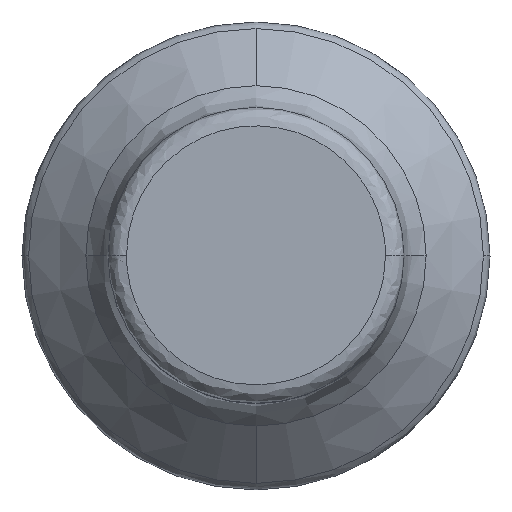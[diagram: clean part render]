
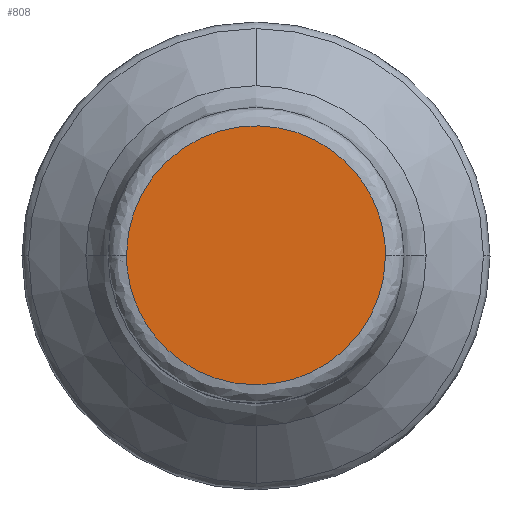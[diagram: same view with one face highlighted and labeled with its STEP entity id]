
A CAD part, top view. The second image highlights one B-rep face of the part: STEP entity #808.
In plain terms, the highlighted planar face has unit normal (0, 0, 1).
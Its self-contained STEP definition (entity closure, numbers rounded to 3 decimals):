
#3 =( BOUNDED_CURVE ( )  B_SPLINE_CURVE ( 3, ( #240, #243, #244, #245 ),
 .UNSPECIFIED., .F., .T. ) 
 B_SPLINE_CURVE_WITH_KNOTS ( ( 4, 4 ),
 ( 0., 1. ),
 .UNSPECIFIED. ) 
 CURVE ( )  GEOMETRIC_REPRESENTATION_ITEM ( )  RATIONAL_B_SPLINE_CURVE ( ( 1., 0.333, 0.333, 1. ) ) 
 REPRESENTATION_ITEM ( '' )  );
#10 =( BOUNDED_CURVE ( )  B_SPLINE_CURVE ( 3, ( #453, #454, #455, #456 ),
 .UNSPECIFIED., .F., .T. ) 
 B_SPLINE_CURVE_WITH_KNOTS ( ( 4, 4 ),
 ( 0., 1. ),
 .UNSPECIFIED. ) 
 CURVE ( )  GEOMETRIC_REPRESENTATION_ITEM ( )  RATIONAL_B_SPLINE_CURVE ( ( 1., 0.333, 0.333, 1. ) ) 
 REPRESENTATION_ITEM ( '' )  );
#88 = ORIENTED_EDGE ( 'NONE', *, *, #800, .F. ) ;
#89 = ORIENTED_EDGE ( 'NONE', *, *, #765, .F. ) ;
#121 = EDGE_LOOP ( 'NONE', ( #89, #88 ) ) ;
#215 = PLANE ( 'NONE',  #704 ) ;
#216 = CARTESIAN_POINT ( 'NONE',  ( 0., 0., 0. ) ) ;
#218 = DIRECTION ( 'NONE',  ( 0., 0., 1. ) ) ;
#222 = DIRECTION ( 'NONE',  ( 1., 0., 0. ) ) ;
#240 = CARTESIAN_POINT ( 'NONE',  ( 2.667, 0., 0. ) ) ;
#243 = CARTESIAN_POINT ( 'NONE',  ( 2.667, -5.334, 0. ) ) ;
#244 = CARTESIAN_POINT ( 'NONE',  ( -2.667, -5.334, 0. ) ) ;
#245 = CARTESIAN_POINT ( 'NONE',  ( -2.667, 0., 0. ) ) ;
#284 = VERTEX_POINT ( 'NONE', #312 ) ;
#288 = VERTEX_POINT ( 'NONE', #316 ) ;
#312 = CARTESIAN_POINT ( 'NONE',  ( -2.667, 0., 0. ) ) ;
#316 = CARTESIAN_POINT ( 'NONE',  ( 2.667, 0., 0. ) ) ;
#453 = CARTESIAN_POINT ( 'NONE',  ( -2.667, 0., 0. ) ) ;
#454 = CARTESIAN_POINT ( 'NONE',  ( -2.667, 5.334, 0. ) ) ;
#455 = CARTESIAN_POINT ( 'NONE',  ( 2.667, 5.334, 0. ) ) ;
#456 = CARTESIAN_POINT ( 'NONE',  ( 2.667, 0., 0. ) ) ;
#613 = FACE_OUTER_BOUND ( 'NONE', #121, .T. ) ;
#704 = AXIS2_PLACEMENT_3D ( 'NONE', #216, #218, #222 ) ;
#765 = EDGE_CURVE ( 'NONE', #284, #288, #10, .T. ) ;
#800 = EDGE_CURVE ( 'NONE', #288, #284, #3, .T. ) ;
#808 = ADVANCED_FACE ( 'NONE', ( #613 ), #215, .T. ) ;
